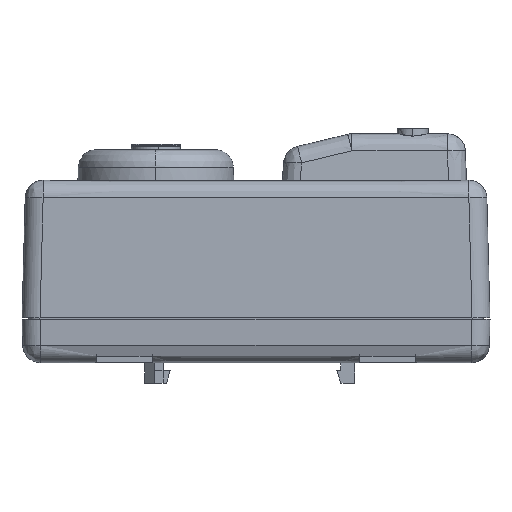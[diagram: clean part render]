
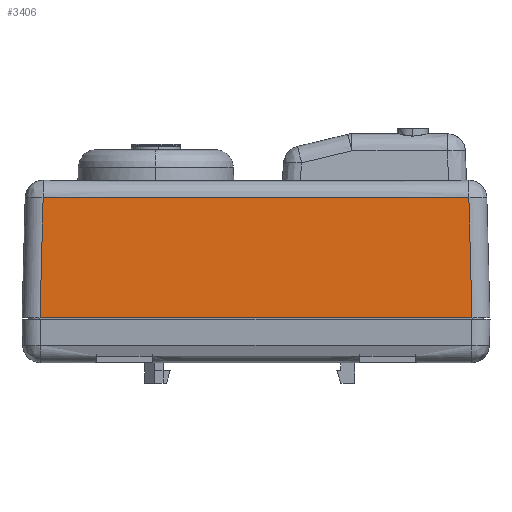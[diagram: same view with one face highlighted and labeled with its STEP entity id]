
A CAD part, left-side view. The second image highlights one B-rep face of the part: STEP entity #3406.
In plain terms, the highlighted planar face has unit normal (-1, 0, 0.026).
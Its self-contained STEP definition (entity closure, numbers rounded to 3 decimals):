
#1248=PLANE($,#21888);
#3406=ADVANCED_FACE($,(#4164),#1248,.T.);
#4164=FACE_OUTER_BOUND($,#4968,.T.);
#4968=EDGE_LOOP($,(#8871,#8872,#8873,#8874));
#8871=ORIENTED_EDGE($,*,*,#13111,.T.);
#8872=ORIENTED_EDGE($,*,*,#13112,.T.);
#8873=ORIENTED_EDGE($,*,*,#13113,.T.);
#8874=ORIENTED_EDGE($,*,*,#13114,.T.);
#13111=EDGE_CURVE($,#17307,#17308,#21162,.T.);
#13112=EDGE_CURVE($,#17308,#17309,#21163,.T.);
#13113=EDGE_CURVE($,#17309,#17310,#21164,.T.);
#13114=EDGE_CURVE($,#17310,#17307,#21165,.T.);
#17307=VERTEX_POINT($,#47522);
#17308=VERTEX_POINT($,#47523);
#17309=VERTEX_POINT($,#47524);
#17310=VERTEX_POINT($,#47525);
#21162=B_SPLINE_CURVE_WITH_KNOTS($,1,(#47509,#47510),.UNSPECIFIED.,.F.,.F.,
(2,2),(-277.872,-193.806),.UNSPECIFIED.);
#21163=B_SPLINE_CURVE_WITH_KNOTS($,3,(#47511,#47512,#47513,#47514),.UNSPECIFIED.,
.F.,.F.,(4,4),(-26.63,-3.319),.UNSPECIFIED.);
#21164=B_SPLINE_CURVE_WITH_KNOTS($,1,(#47515,#47516),.UNSPECIFIED.,.F.,.F.,
(2,2),(-86.255,-3.41),.UNSPECIFIED.);
#21165=B_SPLINE_CURVE_WITH_KNOTS($,3,(#47517,#47518,#47519,#47520),.UNSPECIFIED.,
.F.,.F.,(4,4),(-23.403,-0.092),.UNSPECIFIED.);
#21888=AXIS2_PLACEMENT_3D($,#47521,#22180,$);
#22180=DIRECTION($,(-1.,0.,0.026));
#47509=CARTESIAN_POINT($,(-4.032,84.533,1.796));
#47510=CARTESIAN_POINT($,(-4.032,0.467,1.796));
#47511=CARTESIAN_POINT($,(-4.032,0.467,1.796));
#47512=CARTESIAN_POINT($,(-3.828,0.671,9.561));
#47513=CARTESIAN_POINT($,(-3.625,0.874,17.327));
#47514=CARTESIAN_POINT($,(-3.422,1.077,25.092));
#47515=CARTESIAN_POINT($,(-3.422,1.077,25.092));
#47516=CARTESIAN_POINT($,(-3.422,83.923,25.092));
#47517=CARTESIAN_POINT($,(-3.422,83.923,25.092));
#47518=CARTESIAN_POINT($,(-3.625,84.126,17.327));
#47519=CARTESIAN_POINT($,(-3.828,84.329,9.561));
#47520=CARTESIAN_POINT($,(-4.032,84.533,1.796));
#47521=CARTESIAN_POINT($,(-4.032,0.467,1.796));
#47522=CARTESIAN_POINT($,(-4.032,84.533,1.796));
#47523=CARTESIAN_POINT($,(-4.032,0.467,1.796));
#47524=CARTESIAN_POINT($,(-3.422,1.077,25.092));
#47525=CARTESIAN_POINT($,(-3.422,83.923,25.092));
